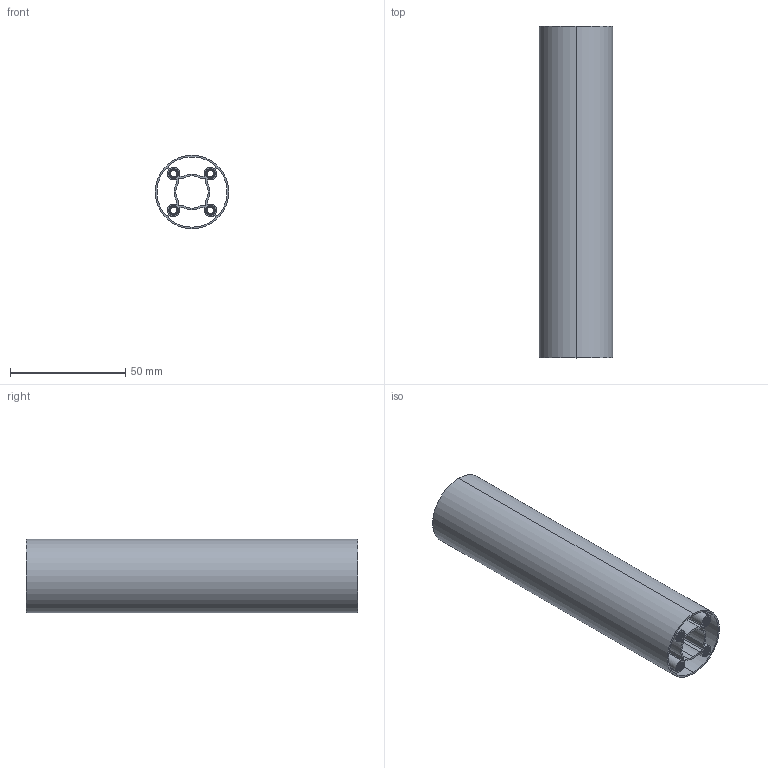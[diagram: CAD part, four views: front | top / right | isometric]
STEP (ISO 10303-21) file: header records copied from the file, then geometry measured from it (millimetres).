
FILE_DESCRIPTION (( 'STEP AP203' ), '1' );
FILE_NAME ('4103-0032-0144.STEP', '2022-09-14T13:51:26', ( '' ), ( '' ), 'SwSTEP 2.0', 'SolidWorks 2016', '' );
FILE_SCHEMA (( 'CONFIG_CONTROL_DESIGN' ));
Length unit declared in the file: millimetre
Products named in the file (1): 4103-0032-0144
Bounding box: 31.95 x 144 x 31.95 mm (x, y, z)
Volume: 24229.3 mm3; surface area: 57937.1 mm2
Topology: 1 solids, 1 shells, 781 faces, 2333 edges, 1554 vertices
Faces by surface type: cylinder 711, plane 34, cone 20, bspline 16
Entity records: 50002 total; most frequent: CARTESIAN_POINT 32717, ORIENTED_EDGE 4666, DIRECTION 2715, EDGE_CURVE 2333, VERTEX_POINT 1554, AXIS2_PLACEMENT_3D 960, EDGE_LOOP 799, LINE 795
